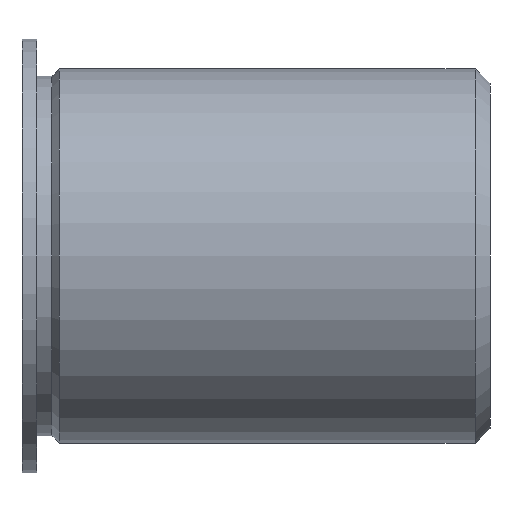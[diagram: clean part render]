
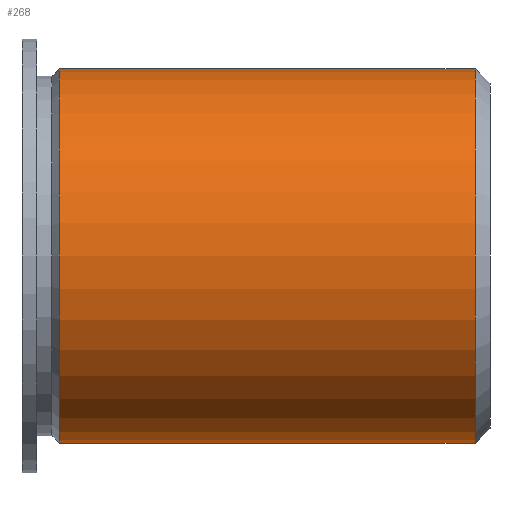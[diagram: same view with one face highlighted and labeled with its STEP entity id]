
A CAD part, front view. The second image highlights one B-rep face of the part: STEP entity #268.
In plain terms, the highlighted cylindrical face has radius 3.181 mm (diameter 6.363 mm), a partial arc.
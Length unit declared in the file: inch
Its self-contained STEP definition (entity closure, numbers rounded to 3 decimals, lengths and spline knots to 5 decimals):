
#6 = DIRECTION ( 'NONE',  ( 0., 0., 1. ) ) ;
#31 = DIRECTION ( 'NONE',  ( -1., 0., 0. ) ) ;
#51 = ORIENTED_EDGE ( 'NONE', *, *, #376, .F. ) ;
#80 = VECTOR ( 'NONE', #171, 39.37008 ) ;
#130 = CIRCLE ( 'NONE', #428, 0.12525 ) ;
#157 = AXIS2_PLACEMENT_3D ( 'NONE', #485, #479, #537 ) ;
#171 = DIRECTION ( 'NONE',  ( -1., 0., 0. ) ) ;
#175 = DIRECTION ( 'NONE',  ( -1., 0., 0. ) ) ;
#183 = VERTEX_POINT ( 'NONE', #456 ) ;
#212 = CARTESIAN_POINT ( 'NONE',  ( -2.08824, 3.75748, -0.12525 ) ) ;
#222 = ORIENTED_EDGE ( 'NONE', *, *, #388, .T. ) ;
#241 = VERTEX_POINT ( 'NONE', #403 ) ;
#242 = EDGE_CURVE ( 'NONE', #183, #322, #130, .T. ) ;
#249 = CARTESIAN_POINT ( 'NONE',  ( -2.06324, 3.75748, 0. ) ) ;
#252 = CARTESIAN_POINT ( 'NONE',  ( -2.06324, 3.75748, 0.12525 ) ) ;
#268 = ADVANCED_FACE ( 'NONE', ( #408 ), #379, .T. ) ;
#287 = ORIENTED_EDGE ( 'NONE', *, *, #475, .T. ) ;
#301 = AXIS2_PLACEMENT_3D ( 'NONE', #335, #31, #538 ) ;
#317 = CIRCLE ( 'NONE', #157, 0.12525 ) ;
#322 = VERTEX_POINT ( 'NONE', #252 ) ;
#334 = LINE ( 'NONE', #455, #531 ) ;
#335 = CARTESIAN_POINT ( 'NONE',  ( -2.08824, 3.75748, 0. ) ) ;
#368 = EDGE_LOOP ( 'NONE', ( #51, #287, #222, #519 ) ) ;
#376 = EDGE_CURVE ( 'NONE', #460, #183, #383, .T. ) ;
#379 = CYLINDRICAL_SURFACE ( 'NONE', #301, 0.12525 ) ;
#383 = LINE ( 'NONE', #212, #80 ) ;
#388 = EDGE_CURVE ( 'NONE', #241, #322, #334, .T. ) ;
#403 = CARTESIAN_POINT ( 'NONE',  ( -1.78524, 3.75748, 0.12525 ) ) ;
#408 = FACE_OUTER_BOUND ( 'NONE', #368, .T. ) ;
#428 = AXIS2_PLACEMENT_3D ( 'NONE', #249, #494, #6 ) ;
#455 = CARTESIAN_POINT ( 'NONE',  ( -2.08824, 3.75748, 0.12525 ) ) ;
#456 = CARTESIAN_POINT ( 'NONE',  ( -2.06324, 3.75748, -0.12525 ) ) ;
#460 = VERTEX_POINT ( 'NONE', #569 ) ;
#475 = EDGE_CURVE ( 'NONE', #460, #241, #317, .T. ) ;
#479 = DIRECTION ( 'NONE',  ( -1., 0., 0. ) ) ;
#485 = CARTESIAN_POINT ( 'NONE',  ( -1.78524, 3.75748, 0. ) ) ;
#494 = DIRECTION ( 'NONE',  ( -1., 0., 0. ) ) ;
#519 = ORIENTED_EDGE ( 'NONE', *, *, #242, .F. ) ;
#531 = VECTOR ( 'NONE', #175, 39.37008 ) ;
#537 = DIRECTION ( 'NONE',  ( 0., 0., 1. ) ) ;
#538 = DIRECTION ( 'NONE',  ( 0., 0., 1. ) ) ;
#569 = CARTESIAN_POINT ( 'NONE',  ( -1.78524, 3.75748, -0.12525 ) ) ;
